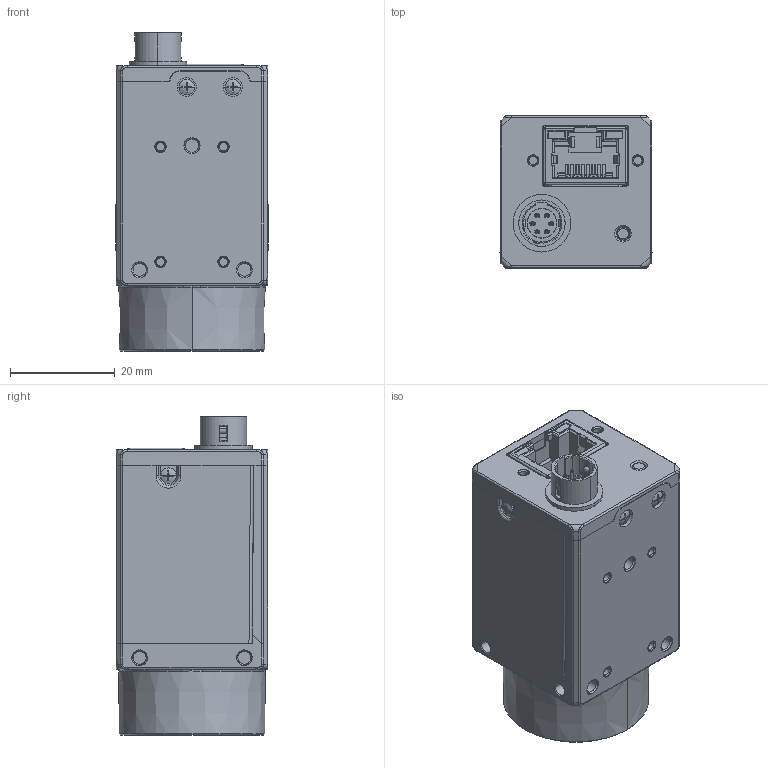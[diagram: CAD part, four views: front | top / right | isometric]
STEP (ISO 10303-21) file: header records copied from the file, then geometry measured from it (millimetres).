
FILE_DESCRIPTION((''),'2;1');
FILE_NAME('00-CH120-10GMCUMC-V4_0_ASM','2022-11-30T22:13:48',('sunli10'),(''),'CREO PARAMETRIC BY PTC INC, 2020044','CREO PARAMETRIC BY PTC INC, 2020044','');
FILE_SCHEMA(('CONFIG_CONTROL_DESIGN'));
Products named in the file (1): 00-CH120-10GMCUMC-V4_0_ASM
Bounding box: 29.03 x 29 x 60.88 mm (x, y, z)
Volume: 34887 mm3; surface area: 24153.5 mm2
Topology: 3 solids, 52 shells, 2722 faces, 7525 edges, 4836 vertices
Faces by surface type: plane 1438, cylinder 823, bspline 258, cone 86, torus 84, extrusion 18, sphere 15
Entity records: 104417 total; most frequent: CARTESIAN_POINT 37395, ORIENTED_EDGE 14898, DIRECTION 12599, EDGE_CURVE 7525, VERTEX_POINT 4836, VECTOR 4423, LINE 4405, AXIS2_PLACEMENT_3D 4088
